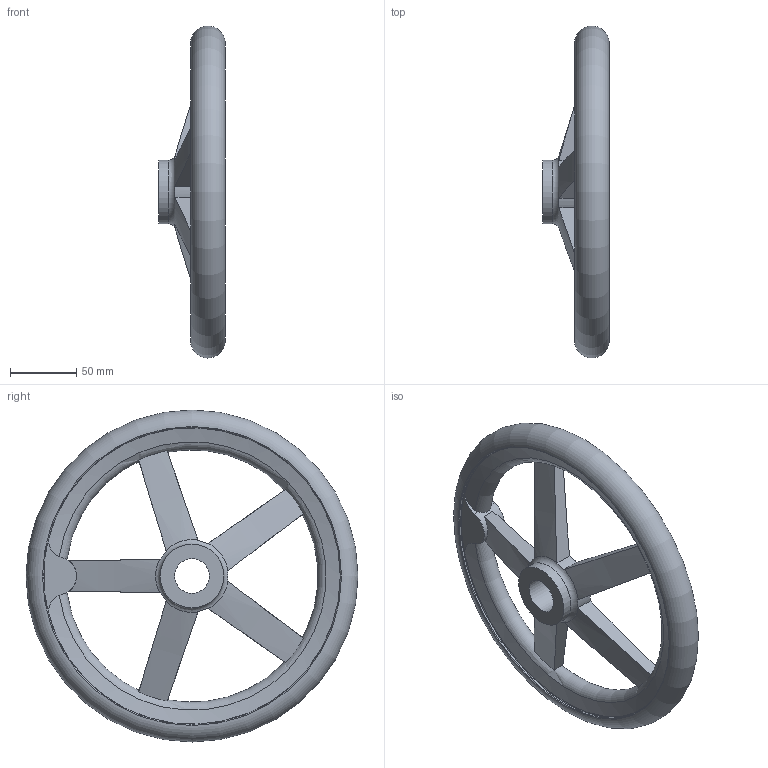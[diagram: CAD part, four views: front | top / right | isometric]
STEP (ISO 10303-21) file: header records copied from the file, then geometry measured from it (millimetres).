
FILE_DESCRIPTION( ( 'STEP AP203' ), '1' );
FILE_NAME( 'C:/Temp/Ganter_Step_05_03_2020/data/1_3/din_950/din_950_b/din_950_b_a/Handwheel DIN 950-GG-250-B26-A.stp', '2020-03-05T10:29:24', ( 'License CC BY-ND 4.0' ), ( 'CADENAS' ), ' ', 'PARTsolutions', ' ' );
FILE_SCHEMA( ( 'CONFIG_CONTROL_DESIGN' ) );
Length unit declared in the file: millimetre
Products named in the file (1): _Handwheel DIN 950-GG-250-B26-A
Bounding box: 50 x 249.99 x 249.99 mm (x, y, z)
Volume: 512858.1 mm3; surface area: 94876.8 mm2
Topology: 1 solids, 1 shells, 49 faces, 147 edges, 95 vertices
Faces by surface type: cylinder 15, plane 14, torus 12, cone 8
Full cylindrical faces by diameter (mm): 26 x1, 48 x2, 224 x2
Entity records: 2110 total; most frequent: CARTESIAN_POINT 874, ORIENTED_EDGE 260, DIRECTION 220, EDGE_CURVE 130, AXIS2_PLACEMENT_3D 102, VERTEX_POINT 92, EDGE_LOOP 69, B_SPLINE_CURVE_WITH_KNOTS 62
